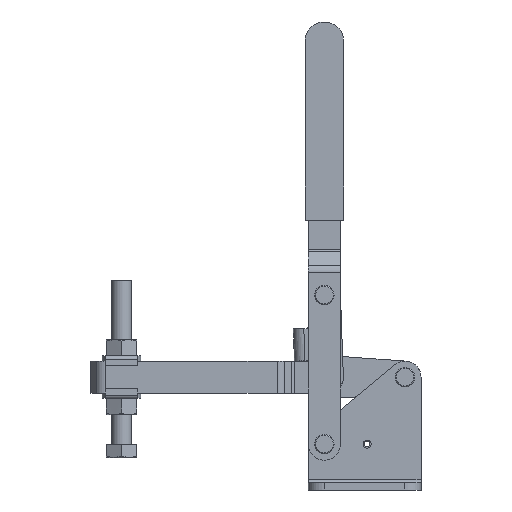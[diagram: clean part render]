
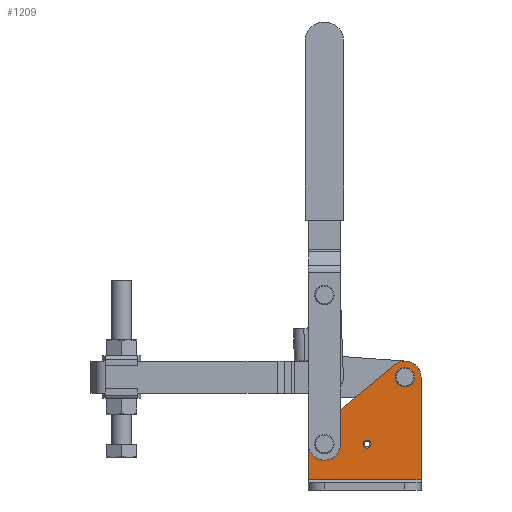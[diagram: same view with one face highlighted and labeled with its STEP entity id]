
A CAD part, front view. The second image highlights one B-rep face of the part: STEP entity #1209.
In plain terms, the highlighted planar face has unit normal (0, -1, 0).
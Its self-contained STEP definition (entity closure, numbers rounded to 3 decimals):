
#801=CARTESIAN_POINT('Cartesian Point',(55.,12.5,70.)) ;
#806=CARTESIAN_POINT('Line Origine',(55.,12.5,38.25)) ;
#810=CARTESIAN_POINT('Cartesian Point',(55.,12.5,6.5)) ;
#873=CARTESIAN_POINT('Cartesian Point',(-15.,12.5,28.504)) ;
#917=CARTESIAN_POINT('Cartesian Point',(-15.,12.5,6.5)) ;
#920=CARTESIAN_POINT('Line Origine',(-15.,12.5,17.502)) ;
#1111=CARTESIAN_POINT('Line Origine',(20.,12.5,6.5)) ;
#1123=CARTESIAN_POINT('Axis2P3D Location',(55.,12.5,80.)) ;
#1128=CARTESIAN_POINT('Axis2P3D Location',(45.,12.5,70.)) ;
#1132=CARTESIAN_POINT('Cartesian Point',(38.614,12.5,77.695)) ;
#1135=CARTESIAN_POINT('Line Origine',(13.614,12.5,56.947)) ;
#1139=CARTESIAN_POINT('Cartesian Point',(-11.386,12.5,36.199)) ;
#1142=CARTESIAN_POINT('Axis2P3D Location',(-5.,12.5,28.504)) ;
#1155=CARTESIAN_POINT('Axis2P3D Location',(45.,12.5,70.)) ;
#1159=CARTESIAN_POINT('Cartesian Point',(49.,12.5,70.)) ;
#1161=CARTESIAN_POINT('Cartesian Point',(41.,12.5,70.)) ;
#1164=CARTESIAN_POINT('Axis2P3D Location',(45.,12.5,70.)) ;
#1173=CARTESIAN_POINT('Axis2P3D Location',(-5.,12.5,28.5)) ;
#1177=CARTESIAN_POINT('Cartesian Point',(-1.,12.5,28.5)) ;
#1179=CARTESIAN_POINT('Cartesian Point',(-9.,12.5,28.5)) ;
#1182=CARTESIAN_POINT('Axis2P3D Location',(-5.,12.5,28.5)) ;
#1191=CARTESIAN_POINT('Axis2P3D Location',(21.5,12.5,28.5)) ;
#1195=CARTESIAN_POINT('Cartesian Point',(24.,12.5,28.5)) ;
#1197=CARTESIAN_POINT('Cartesian Point',(19.,12.5,28.5)) ;
#1200=CARTESIAN_POINT('Axis2P3D Location',(21.5,12.5,28.5)) ;
#807=DIRECTION('Vector Direction',(0.,0.,1.)) ;
#921=DIRECTION('Vector Direction',(0.,0.,1.)) ;
#1112=DIRECTION('Vector Direction',(-1.,0.,0.)) ;
#1124=DIRECTION('Axis2P3D Direction',(0.,1.,0.)) ;
#1125=DIRECTION('Axis2P3D XDirection',(1.,0.,0.)) ;
#1129=DIRECTION('Axis2P3D Direction',(0.,1.,0.)) ;
#1136=DIRECTION('Vector Direction',(0.77,0.,0.639)) ;
#1143=DIRECTION('Axis2P3D Direction',(0.,1.,0.)) ;
#1156=DIRECTION('Axis2P3D Direction',(0.,1.,0.)) ;
#1165=DIRECTION('Axis2P3D Direction',(0.,1.,0.)) ;
#1174=DIRECTION('Axis2P3D Direction',(0.,1.,0.)) ;
#1183=DIRECTION('Axis2P3D Direction',(0.,1.,0.)) ;
#1192=DIRECTION('Axis2P3D Direction',(0.,1.,0.)) ;
#1201=DIRECTION('Axis2P3D Direction',(0.,1.,0.)) ;
#1126=AXIS2_PLACEMENT_3D('Plane Axis2P3D',#1123,#1124,#1125) ;
#1130=AXIS2_PLACEMENT_3D('Circle Axis2P3D',#1128,#1129,$) ;
#1144=AXIS2_PLACEMENT_3D('Circle Axis2P3D',#1142,#1143,$) ;
#1157=AXIS2_PLACEMENT_3D('Circle Axis2P3D',#1155,#1156,$) ;
#1166=AXIS2_PLACEMENT_3D('Circle Axis2P3D',#1164,#1165,$) ;
#1175=AXIS2_PLACEMENT_3D('Circle Axis2P3D',#1173,#1174,$) ;
#1184=AXIS2_PLACEMENT_3D('Circle Axis2P3D',#1182,#1183,$) ;
#1193=AXIS2_PLACEMENT_3D('Circle Axis2P3D',#1191,#1192,$) ;
#1202=AXIS2_PLACEMENT_3D('Circle Axis2P3D',#1200,#1201,$) ;
#1148=ORIENTED_EDGE('Oriented Edge',*,*,#1134,.F.) ;
#1149=ORIENTED_EDGE('Oriented Edge',*,*,#1141,.F.) ;
#1150=ORIENTED_EDGE('Oriented Edge',*,*,#1146,.F.) ;
#1151=ORIENTED_EDGE('Oriented Edge',*,*,#924,.F.) ;
#1152=ORIENTED_EDGE('Oriented Edge',*,*,#1115,.F.) ;
#1153=ORIENTED_EDGE('Oriented Edge',*,*,#812,.T.) ;
#1170=ORIENTED_EDGE('Oriented Edge',*,*,#1163,.T.) ;
#1171=ORIENTED_EDGE('Oriented Edge',*,*,#1168,.T.) ;
#1188=ORIENTED_EDGE('Oriented Edge',*,*,#1181,.T.) ;
#1189=ORIENTED_EDGE('Oriented Edge',*,*,#1186,.T.) ;
#1206=ORIENTED_EDGE('Oriented Edge',*,*,#1199,.T.) ;
#1207=ORIENTED_EDGE('Oriented Edge',*,*,#1204,.T.) ;
#1172=FACE_BOUND('Face Bound',#1169,.T.) ;
#1190=FACE_BOUND('Face Bound',#1187,.T.) ;
#1208=FACE_BOUND('Face Bound',#1205,.T.) ;
#808=VECTOR('Line Direction',#807,1.) ;
#922=VECTOR('Line Direction',#921,1.) ;
#1113=VECTOR('Line Direction',#1112,1.) ;
#1137=VECTOR('Line Direction',#1136,1.) ;
#1209=ADVANCED_FACE('',(#1154,#1172,#1190,#1208),#1127,.F.) ;
#1131=CIRCLE('generated circle',#1130,10.) ;
#1145=CIRCLE('generated circle',#1144,10.) ;
#1158=CIRCLE('generated circle',#1157,4.) ;
#1167=CIRCLE('generated circle',#1166,4.) ;
#1176=CIRCLE('generated circle',#1175,4.) ;
#1185=CIRCLE('generated circle',#1184,4.) ;
#1194=CIRCLE('generated circle',#1193,2.5) ;
#1203=CIRCLE('generated circle',#1202,2.5) ;
#812=EDGE_CURVE('',#811,#802,#809,.T.) ;
#924=EDGE_CURVE('',#918,#874,#923,.T.) ;
#1115=EDGE_CURVE('',#811,#918,#1114,.T.) ;
#1134=EDGE_CURVE('',#1133,#802,#1131,.T.) ;
#1141=EDGE_CURVE('',#1140,#1133,#1138,.T.) ;
#1146=EDGE_CURVE('',#874,#1140,#1145,.T.) ;
#1163=EDGE_CURVE('',#1160,#1162,#1158,.T.) ;
#1168=EDGE_CURVE('',#1162,#1160,#1167,.T.) ;
#1181=EDGE_CURVE('',#1178,#1180,#1176,.T.) ;
#1186=EDGE_CURVE('',#1180,#1178,#1185,.T.) ;
#1199=EDGE_CURVE('',#1196,#1198,#1194,.T.) ;
#1204=EDGE_CURVE('',#1198,#1196,#1203,.T.) ;
#1147=EDGE_LOOP('Oriented Loop',(#1148,#1149,#1150,#1151,#1152,#1153)) ;
#1169=EDGE_LOOP('Oriented Loop',(#1170,#1171)) ;
#1187=EDGE_LOOP('Oriented Loop',(#1188,#1189)) ;
#1205=EDGE_LOOP('Oriented Loop',(#1206,#1207)) ;
#1154=FACE_OUTER_BOUND('Face Bound',#1147,.T.) ;
#809=LINE('Line',#806,#808) ;
#923=LINE('Line',#920,#922) ;
#1114=LINE('Line',#1111,#1113) ;
#1138=LINE('Line',#1135,#1137) ;
#1127=PLANE('Plane',#1126) ;
#802=VERTEX_POINT('Vertex Point',#801) ;
#811=VERTEX_POINT('Vertex Point',#810) ;
#874=VERTEX_POINT('Vertex Point',#873) ;
#918=VERTEX_POINT('Vertex Point',#917) ;
#1133=VERTEX_POINT('Vertex Point',#1132) ;
#1140=VERTEX_POINT('Vertex Point',#1139) ;
#1160=VERTEX_POINT('Vertex Point',#1159) ;
#1162=VERTEX_POINT('Vertex Point',#1161) ;
#1178=VERTEX_POINT('Vertex Point',#1177) ;
#1180=VERTEX_POINT('Vertex Point',#1179) ;
#1196=VERTEX_POINT('Vertex Point',#1195) ;
#1198=VERTEX_POINT('Vertex Point',#1197) ;
